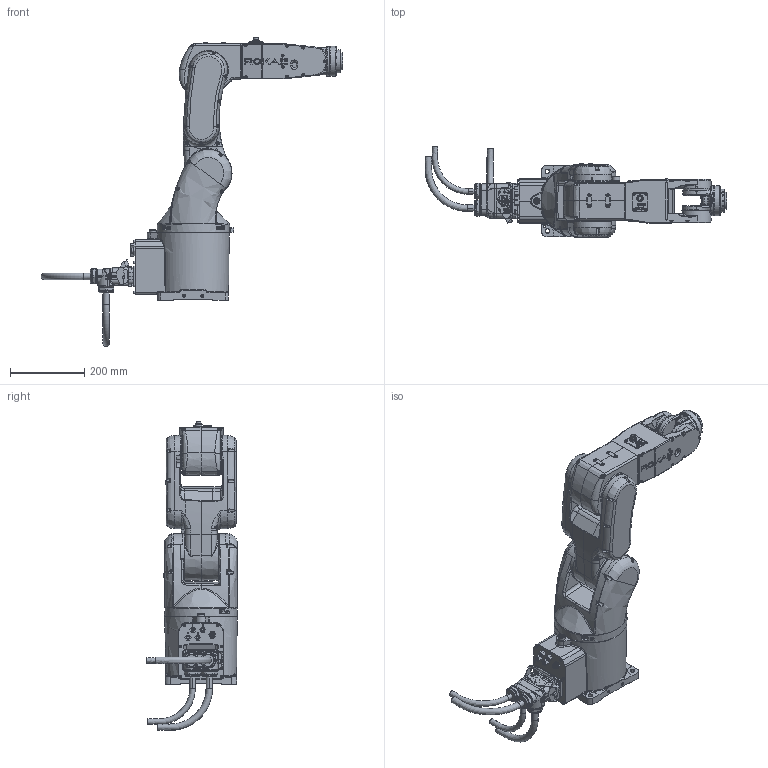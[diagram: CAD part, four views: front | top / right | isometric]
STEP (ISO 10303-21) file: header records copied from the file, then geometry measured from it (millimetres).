
FILE_DESCRIPTION(/* description */ (''),/* implementation_level */ '2;1');
FILE_NAME(/* name */ 'XB4h-R596_stp.stp',/* time_stamp */ '2020-04-15T17:00:46+08:00',/* author */ (''),/* organization */ (''),/* preprocessor_version */ 'ST-DEVELOPER v16',/* originating_system */ 'SIEMENS PLM Software NX 10.0',/* authorisation */ '');
FILE_SCHEMA (('CONFIG_CONTROL_DESIGN'));
Products named in the file (8): XB4h-R596-base; XB4h-R596-1; XB4h-R596-2; XB4h-R596-3; XB4h-R596-4; XB4h-R596-5; XB4h-R596-6; XB4h-R596_stp_stp
Assembly tree (7 placements, depth 2):
  XB4h-R596_stp_stp
    XB4h-R596-6
    XB4h-R596-5
    XB4h-R596-4
    XB4h-R596-3
    XB4h-R596-2
    XB4h-R596-1
    XB4h-R596-base
Bounding box: 810.63 x 243.5 x 830.3 mm (x, y, z)
Volume: 19337348.3 mm3; surface area: 1055231.2 mm2
Topology: 11 solids, 12 shells, 5456 faces, 12623 edges, 7297 vertices
Faces by surface type: plane 2314, cylinder 922, cone 870, bspline 828, torus 290, extrusion 170, sphere 62
Full cylindrical faces by diameter (mm): 2.5 x5, 2.874 x1, 3.2 x1, 3.3 x6, 4.2 x9, 5 x1, 5.5 x78, 6 x2, 6.5 x10, 6.8 x4, 7 x20, 8 x3, 8.5 x4, 8.6 x4, 10 x11, 10.701 x2, 10.8 x1, 11 x5, 12.8 x1, 14 x1, 16 x2, 18 x1, 18.3 x1, 20 x1, 21 x1, 23 x2, 45 x1, 56 x2, 59 x2, 60 x2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
Entity records: 191119 total; most frequent: CARTESIAN_POINT 81305, ORIENTED_EDGE 23556, DIRECTION 19817, EDGE_CURVE 11778, AXIS2_PLACEMENT_3D 7803, VERTEX_POINT 7193, EDGE_LOOP 6195, ADVANCED_FACE 5447
